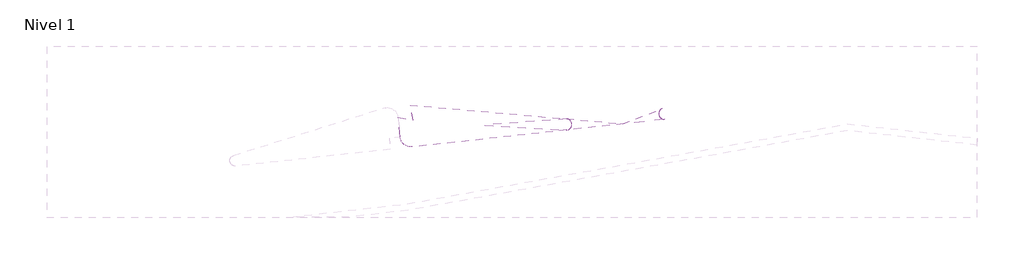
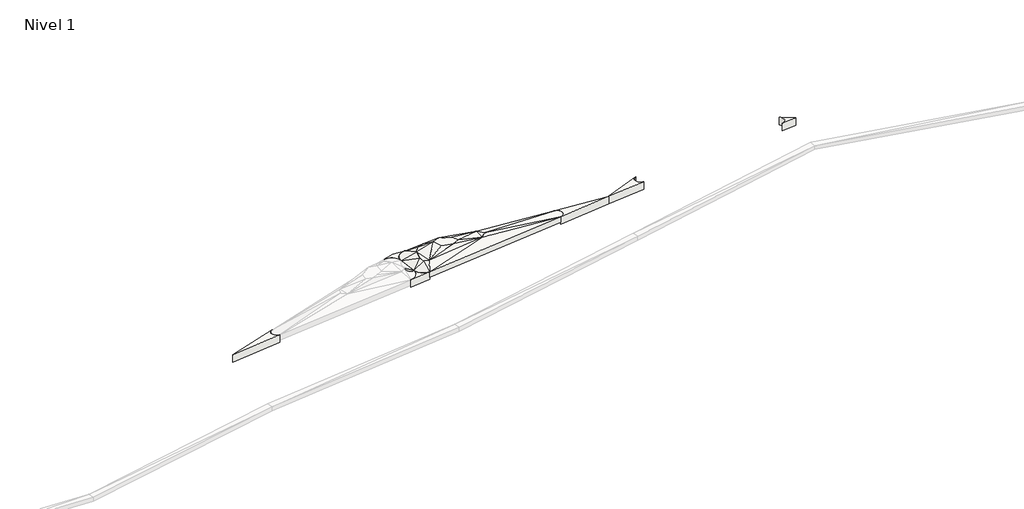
# One storey, part 10 of 45: 2 slabs.
"""IFC4 building model written with IfcOpenShell, lengths in millimetres."""

from ifc_helpers import new_model, si_unit, frame, origin, place, context, project, spatial, polyline, circle_curve, element, save
from ifc_brep_helpers import plane_surface, cylinder_surface, revolved_surface, spline_surface, advanced_brep

model = new_model("IFC4")

# Units and contexts
model_context = context("Model", 3, world=origin())
ifc_project = project(units=[si_unit("LENGTHUNIT", "METRE", prefix="MILLI")], contexts=[model_context])

# Site, building, storey
site = spatial("IfcSite", under=ifc_project)
building = spatial("IfcBuilding", under=site)
storey = spatial("IfcBuildingStorey", under=building, Name="Nivel 1", Elevation=0.0)

# Slabs
placement = place(None, origin())
element("IfcSlab", 1, ObjectType="Lippia", at=placement, inside=storey, context=model_context, shape_type="AdvancedBrep", body=[
    advanced_brep(
    [(-78217.6311545, -457938.6370183, 4700.0), (-78217.6311545, -457938.6370183, 5000.0), (-78314.9841622, -457050.6219198, 5000.0), (-78314.9841622, -457050.6219198, 4700.0), (-77772.3096287, -456498.2212469, 5000.0), (-77772.3096287, -456498.2212469, 4700.0), (-70737.9971161, -457120.3791126, 5000.0), (-70737.9971161, -457120.3791126, 4700.0), (-70734.0395739, -457618.0573532, 4700.0), (-70734.0395739, -457618.0573532, 5000.0), (-77668.3617242, -458378.1558725, 5000.0), (-77668.3617242, -458378.1558725, 4700.0), (-77632.0107481, -457185.1841686, 5300.0), (-77749.1873222, -457671.8530833, 5300.0), (-77632.0107481, -457185.1841686, 5000.0), (-77749.1873222, -457671.8530833, 5000.0), (-75910.5202816, -457236.8727452, 5500.0), (-76173.1330781, -457114.4629871, 5500.0), (-76435.7458745, -456992.0532289, 5500.0), (-76781.1546954, -457147.935309, 5500.0), (-76632.7027764, -457571.9496486, 5500.0), (-76351.9669472, -457639.8429706, 5500.0), (-76120.1136662, -457695.9145077, 5500.0), (-75777.7448454, -457545.0483914, 5500.0), (-75910.5202816, -457236.8727452, 5200.0), (-75777.7448454, -457545.0483914, 5200.0), (-76120.1136662, -457695.9145077, 5200.0), (-76351.9669472, -457639.8429706, 5200.0), (-76632.7027764, -457571.9496486, 5200.0), (-76781.1546954, -457147.935309, 5200.0), (-76435.7458745, -456992.0532289, 5200.0), (-76173.1330781, -457114.4629871, 5200.0), (-77475.5890317, -457978.4907985, 5300.0), (-77692.6710863, -457896.8045734, 5300.0), (-77475.5890317, -457978.4907985, 5000.0), (-77692.6710863, -457896.8045734, 5000.0), (-77427.1176091, -456884.9899688, 5300.0), (-77427.1176091, -456884.9899688, 5000.0), (-77073.0665977, -456802.8581401, 5300.0), (-74626.6695054, -457146.5039374, 5300.0), (-74626.6695054, -457146.5039374, 5000.0), (-77073.0665977, -456802.8581401, 5000.0), (-74632.1171221, -457642.3473699, 5300.0), (-74632.1171221, -457642.3473699, 5000.0), (-74411.4610936, -457396.8092642, 5300.0), (-74411.4610936, -457396.8092642, 5000.0)],
    [
        (0, 1),
        (1, 2),
        (2, 3),
        (3, 0),
        (2, 4, circle_curve(frame((-77817.9586027, -456996.1330568, 5000.0), z_axis=(0.0, 0.0, -1.0), x_axis=(-0.19657437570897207, 0.9804889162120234, 0.0)), 499.9999992)),
        (4, 5),
        (5, 3, circle_curve(frame((-77817.9586027, -456996.1330568, 4700.0), z_axis=(0.0, 0.0, 1.0), x_axis=(-0.19657437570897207, 0.9804889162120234, 0.0)), 499.9999992)),
        (4, 6),
        (6, 7),
        (7, 5),
        (8, 9),
        (9, 10),
        (10, 11),
        (11, 8),
        (10, 1, circle_curve(frame((-77720.9722506, -457880.9314437, 5000.0), z_axis=(0.0, 0.0, -1.0), x_axis=(-0.19657437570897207, 0.9804889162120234, 0.0)), 500.0000001)),
        (0, 11, circle_curve(frame((-77720.9722506, -457880.9314437, 4700.0), z_axis=(0.0, 0.0, 1.0), x_axis=(-0.19657437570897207, 0.9804889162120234, 0.0)), 500.0000001)),
        (2, 12),
        (12, 4),
        (1, 13),
        (13, 2),
        (5, 14),
        (14, 3),
        (3, 15),
        (15, 0),
        (16, 17),
        (17, 18),
        (18, 19),
        (19, 20),
        (20, 21),
        (21, 22),
        (22, 23),
        (23, 16),
        (24, 25),
        (25, 26),
        (26, 27),
        (27, 28),
        (28, 29),
        (29, 30),
        (30, 31),
        (31, 24),
        (20, 32),
        (32, 22),
        (10, 32),
        (32, 33),
        (33, 10),
        (19, 32),
        (26, 34),
        (34, 28),
        (11, 35),
        (35, 34),
        (34, 11),
        (34, 29),
        (32, 12),
        (12, 13),
        (13, 33),
        (19, 12),
        (12, 36),
        (36, 4),
        (35, 15),
        (15, 14),
        (14, 34),
        (14, 29),
        (5, 37),
        (37, 14),
        (4, 38),
        (38, 39),
        (39, 4),
        (19, 38),
        (38, 36),
        (36, 19),
        (5, 40),
        (40, 41),
        (41, 5),
        (29, 37),
        (37, 41),
        (41, 29),
        (22, 42),
        (42, 23),
        (23, 39),
        (39, 16),
        (39, 18),
        (25, 43),
        (43, 26),
        (24, 40),
        (40, 25),
        (30, 40),
        (42, 39),
        (40, 43),
        (1, 33),
        (35, 0),
        (10, 42),
        (42, 32),
        (42, 44),
        (44, 39),
        (18, 38),
        (34, 43),
        (43, 11),
        (40, 45),
        (45, 43),
        (41, 30),
        (6, 9, circle_curve(frame((-70760.0230548, -457369.4113027, 5000.0), z_axis=(0.0, 0.0, -1.0), x_axis=(-0.19657437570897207, 0.9804889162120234, 0.0)), 249.9999994)),
        (8, 7, circle_curve(frame((-70760.0230548, -457369.4113027, 4700.0), z_axis=(0.0, 0.0, 1.0), x_axis=(-0.19657437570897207, 0.9804889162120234, 0.0)), 249.9999994)),
        (9, 42),
        (9, 44),
        (6, 44),
        (6, 39),
        (43, 8),
        (45, 8),
        (45, 7),
        (40, 7),
    ],
    [
        plane_surface(frame((-78217.6311545, -457938.6370183, 4700.0), z_axis=(-0.9940442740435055, -0.10897697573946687, 0.0), x_axis=(0.0, 0.0, 1.0))),
        cylinder_surface(frame((-77817.9586027, -456996.1330568, 5000.0), z_axis=(0.0, 0.0, -1.0000000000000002), x_axis=(-0.19657437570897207, 0.9804889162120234, 0.0)), 499.9999992),
        plane_surface(frame((-77772.3096287, -456498.2212469, 4700.0), z_axis=(0.08810222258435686, 0.9961114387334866, 0.0), x_axis=(0.0, 0.0, 1.0))),
        plane_surface(frame((-70734.0395739, -457618.0573532, 4700.0), z_axis=(0.10896131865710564, -0.9940459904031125, 0.0), x_axis=(0.0, 0.0, 1.0))),
        cylinder_surface(frame((-77720.9722506, -457880.9314437, 5000.0), z_axis=(0.0, 0.0, -1.0000000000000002), x_axis=(-0.19657437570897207, 0.9804889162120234, 0.0)), 500.0000001),
        spline_surface(2, 1, [[(-77772.3096287, -456498.2212469, 5000.0), (-77632.0107481, -457185.1841686, 5300.0)], [(-78008.45505724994, -456476.5712351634, 5000.0), (-77632.0107481, -457185.1841686, 5300.0)], [(-78174.6390691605, -456645.73464911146, 5000.0), (-77632.0107481, -457185.1841686, 5300.0)], [(-78340.8230810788, -456814.89806298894, 5000.0), (-77632.0107481, -457185.1841686, 5300.0)], [(-78314.9807389, -457050.6215446, 5000.0), (-77632.0107481, -457185.1841686, 5300.0)]], [3, 2, 3], [2, 2], [0.0, 1.0, 2.0], [0.0, 1.0], weights=[[1.0, 1.0], [0.9035324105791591, 0.9035324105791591], [1.0, 1.0], [0.903532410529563, 0.903532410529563], [1.0, 1.0]]),
        plane_surface(frame((-78093.9342129, -457553.7040071, 5100.0), z_axis=(-0.515422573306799, -0.05650572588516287, 0.8550711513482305), x_axis=(0.10897697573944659, -0.9940442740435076, 0.0))),
        spline_surface(1, 2, [[(-77772.3096287, -456498.2212469, 4700.0), (-78008.45505724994, -456476.5712351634, 4700.0), (-78174.6390691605, -456645.73464911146, 4700.0), (-78340.8230810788, -456814.89806298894, 4700.0), (-78314.9807389, -457050.6215446, 4700.0)], [(-77632.0107481, -457185.1841686, 5000.0), (-77632.0107481, -457185.1841686, 5000.0), (-77632.0107481, -457185.1841686, 5000.0), (-77632.0107481, -457185.1841686, 5000.0), (-77632.0107481, -457185.1841686, 5000.0)]], [2, 2], [3, 2, 3], [0.0, 1.0], [0.0, 1.0, 2.0], weights=[[1.0, 0.9035324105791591, 1.0, 0.903532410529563, 1.0], [1.0, 0.9035324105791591, 1.0, 0.903532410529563, 1.0]]),
        plane_surface(frame((-78093.9342129, -457553.7040071, 4800.0), z_axis=(0.515422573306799, 0.05650572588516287, -0.8550711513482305), x_axis=(0.10897697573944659, -0.9940442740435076, 0.0))),
        plane_surface(frame((-76276.3303566, -457364.9623051, 5500.0), z_axis=(0.0, 0.0, 1.0), x_axis=(-0.9063720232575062, 0.4224804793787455, 0.0))),
        plane_surface(frame((-76276.3303566, -457364.9623051, 5200.0), z_axis=(0.0, 0.0, -1.0), x_axis=(-0.9063720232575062, 0.4224804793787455, 0.0))),
        plane_surface(frame((-76742.8018248, -457748.784985, 5433.3333333), z_axis=(-0.0750900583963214, -0.31049401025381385, 0.9476048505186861), x_axis=(-0.9719798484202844, 0.23506419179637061, 0.0))),
        plane_surface(frame((-77612.2072807, -458084.4837481, 5200.0), z_axis=(-0.19779889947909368, -0.5256527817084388, 0.8273842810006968), x_axis=(0.35990275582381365, 0.7461666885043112, 0.5600939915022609))),
        plane_surface(frame((-76963.1488345, -457566.1252521, 5433.3333333), z_axis=(-0.19846165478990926, -0.06948353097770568, 0.9776425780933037), x_axis=(-0.6307668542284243, -0.7544080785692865, -0.18166349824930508))),
        plane_surface(frame((-76742.8018248, -457748.784985, 5133.3333333), z_axis=(0.0750900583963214, 0.31049401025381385, -0.9476048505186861), x_axis=(-0.9719798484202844, 0.23506419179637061, 0.0))),
        plane_surface(frame((-77612.2072807, -458084.4837481, 4900.0), z_axis=(0.19779889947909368, 0.5256527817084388, -0.8273842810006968), x_axis=(0.35990275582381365, 0.7461666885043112, 0.5600939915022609))),
        plane_surface(frame((-76963.1488345, -457566.1252521, 5133.3333333), z_axis=(0.19846165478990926, 0.06948353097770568, -0.9776425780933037), x_axis=(-0.6307668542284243, -0.7544080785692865, -0.18166349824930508))),
        plane_surface(frame((-77637.3645471, -457683.0831559, 5300.0), z_axis=(0.0, 0.0, 1.0), x_axis=(-0.19345214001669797, 0.9811097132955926, 0.0))),
        plane_surface(frame((-77296.2514917, -457437.2034254, 5366.6666667), z_axis=(-0.22673703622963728, -0.04470729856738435, 0.9729293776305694), x_axis=(-0.9725857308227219, -0.042577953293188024, -0.22861346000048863))),
        plane_surface(frame((-77610.4793286, -456856.1317948, 5200.0), z_axis=(-0.4229879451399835, 0.28870420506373, 0.8589127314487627), x_axis=(0.18396759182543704, -0.9007834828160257, 0.39337646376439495))),
        plane_surface(frame((-77898.7274108, -457302.5530572, 5200.0), z_axis=(-0.38506660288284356, 0.09271351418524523, 0.9182199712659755), x_axis=(0.6341459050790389, -0.6962767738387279, 0.3362404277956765))),
        plane_surface(frame((-77637.3645471, -457683.0831559, 5000.0), z_axis=(0.0, 0.0, -1.0), x_axis=(-0.19345214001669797, 0.9811097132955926, 0.0))),
        plane_surface(frame((-77296.2514917, -457437.2034254, 5066.6666667), z_axis=(0.22673703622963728, 0.04470729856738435, -0.9729293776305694), x_axis=(-0.9725857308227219, -0.042577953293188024, -0.22861346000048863))),
        plane_surface(frame((-77610.4793286, -456856.1317948, 4900.0), z_axis=(0.4229879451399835, -0.28870420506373, -0.8589127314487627), x_axis=(0.18396759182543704, -0.9007834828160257, 0.39337646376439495))),
        plane_surface(frame((-77898.7274108, -457302.5530572, 4900.0), z_axis=(0.38506660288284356, -0.09271351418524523, -0.9182199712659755), x_axis=(0.6341459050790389, -0.6962767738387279, 0.3362404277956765))),
        plane_surface(frame((-76490.6819106, -456815.8611082, 5200.0), z_axis=(0.11495655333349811, 0.8183699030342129, 0.5630769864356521), x_axis=(0.8531513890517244, -0.3716896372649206, 0.36603213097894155))),
        plane_surface(frame((-77093.7796341, -456945.2611393, 5366.6666667), z_axis=(-0.10063372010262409, 0.43380831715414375, 0.8953676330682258), x_axis=(-0.5906065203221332, 0.6981723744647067, -0.4046470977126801))),
        plane_surface(frame((-76490.6819106, -456815.8611082, 4900.0), z_axis=(-0.11495655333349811, -0.8183699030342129, -0.5630769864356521), x_axis=(0.8531513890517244, -0.3716896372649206, 0.36603213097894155))),
        plane_surface(frame((-77093.7796341, -456945.2611393, 5066.6666667), z_axis=(0.10063372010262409, -0.43380831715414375, -0.8953676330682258), x_axis=(-0.5906065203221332, 0.6981723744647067, -0.4046470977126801))),
        plane_surface(frame((-75509.9918779, -457627.7700897, 5433.3333333), z_axis=(0.13758334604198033, -0.3122254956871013, 0.9399925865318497), x_axis=(-0.915094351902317, -0.40323978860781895, 0.0))),
        plane_surface(frame((-75438.3115442, -457309.4750247, 5433.3333333), z_axis=(0.14918782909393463, 0.06427658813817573, 0.9867175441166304), x_axis=(0.39568133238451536, -0.9183878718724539, 0.0))),
        plane_surface(frame((-75657.6452205, -457125.1433038, 5433.3333333), z_axis=(0.128890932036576, 0.2765172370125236, 0.95232628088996), x_axis=(0.9857014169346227, 0.0693824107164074, -0.15355389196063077))),
        plane_surface(frame((-75509.9918779, -457627.7700897, 5133.3333333), z_axis=(-0.13758334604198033, 0.3122254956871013, -0.9399925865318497), x_axis=(-0.915094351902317, -0.40323978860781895, 0.0))),
        plane_surface(frame((-75438.3115442, -457309.4750247, 5133.3333333), z_axis=(-0.14918782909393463, -0.06427658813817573, -0.9867175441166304), x_axis=(0.39568133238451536, -0.9183878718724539, 0.0))),
        plane_surface(frame((-75657.6452205, -457125.1433038, 5133.3333333), z_axis=(-0.128890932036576, -0.2765172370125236, -0.95232628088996), x_axis=(0.9857014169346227, 0.0693824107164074, -0.15355389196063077))),
        plane_surface(frame((-75012.1771576, -457444.6332329, 5366.6666667), z_axis=(0.1718199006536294, -0.0018877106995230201, 0.9851265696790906), x_axis=(0.9816713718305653, -0.08337404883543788, -0.17137702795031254))),
        plane_surface(frame((-75012.1771576, -457444.6332329, 5066.6666667), z_axis=(-0.1718199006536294, 0.0018877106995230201, -0.9851265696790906), x_axis=(0.9816713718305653, -0.08337404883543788, -0.17137702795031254))),
        plane_surface(frame((-77886.496521, -457835.7648916, 5200.0), z_axis=(-0.4851290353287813, -0.12188257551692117, 0.8659067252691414), x_axis=(0.8661563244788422, 0.06902131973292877, 0.4949841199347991))),
        spline_surface(2, 1, [[(-78217.6311545, -457938.6370183, 5000.0), (-77692.6710863, -457896.8045734, 5300.0)], [(-78160.51420669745, -458430.2297444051, 5000.0), (-77692.6710863, -457896.8045734, 5300.0)], [(-77668.3617242, -458378.1558725, 5000.0), (-77692.6710863, -457896.8045734, 5300.0)]], [3, 3], [2, 2], [0.0, 1.0], [0.0, 1.0], weights=[[1.0, 1.0], [0.7107223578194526, 0.7107223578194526], [1.0, 1.0]]),
        plane_surface(frame((-77886.496521, -457835.7648916, 4900.0), z_axis=(0.4851290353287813, 0.12188257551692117, -0.8659067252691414), x_axis=(0.8661563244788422, 0.06902131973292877, 0.4949841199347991))),
        spline_surface(1, 2, [[(-78217.6311545, -457938.6370183, 4700.0), (-78160.51420669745, -458430.2297444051, 4700.0), (-77668.3617242, -458378.1558725, 4700.0)], [(-77692.6710863, -457896.8045734, 5000.0), (-77692.6710863, -457896.8045734, 5000.0), (-77692.6710863, -457896.8045734, 5000.0)]], [2, 2], [3, 3], [0.0, 1.0], [0.0, 1.0], weights=[[1.0, 0.7107223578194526, 1.0], [1.0, 0.7107223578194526, 1.0]]),
        plane_surface(frame((-77280.0943509, -457072.7031488, 5366.6666667), z_axis=(-0.2324995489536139, 0.1586891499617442, 0.9595632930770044), x_axis=(-0.890320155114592, 0.362413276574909, -0.2756567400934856))),
        plane_surface(frame((-77280.0943509, -457072.7031488, 5066.6666667), z_axis=(0.2324995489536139, -0.1586891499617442, -0.9595632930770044), x_axis=(-0.890320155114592, 0.362413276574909, -0.2756567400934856))),
        plane_surface(frame((-76592.022626, -457999.6646803, 5200.0), z_axis=(0.07342528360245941, -0.6211120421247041, 0.78027466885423), x_axis=(0.9674183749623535, 0.23444575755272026, 0.09558699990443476))),
        plane_surface(frame((-74556.7492404, -457395.2201905, 5300.0), z_axis=(0.0, 0.0, 1.0), x_axis=(-0.010985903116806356, -0.9999396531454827, 0.0))),
        plane_surface(frame((-76763.3223892, -456980.9488927, 5433.3333333), z_axis=(-0.17196163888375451, 0.3810384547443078, 0.9084266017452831), x_axis=(0.9114784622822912, 0.4113478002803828, 0.0))),
        plane_surface(frame((-77424.1646119, -456728.6897853, 5200.0), z_axis=(-0.12443482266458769, 0.536409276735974, 0.8347341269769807), x_axis=(0.5763234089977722, -0.6457387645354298, 0.5008720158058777))),
        plane_surface(frame((-76592.022626, -457999.6646803, 4900.0), z_axis=(-0.07342528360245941, 0.6211120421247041, -0.78027466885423), x_axis=(0.9674183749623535, 0.23444575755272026, 0.09558699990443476))),
        plane_surface(frame((-74556.7492404, -457395.2201905, 5000.0), z_axis=(0.0, 0.0, -1.0), x_axis=(-0.010985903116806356, -0.9999396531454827, 0.0))),
        plane_surface(frame((-76763.3223892, -456980.9488927, 5133.3333333), z_axis=(0.17196163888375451, -0.3810384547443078, -0.9084266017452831), x_axis=(0.9114784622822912, 0.4113478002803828, 0.0))),
        plane_surface(frame((-77424.1646119, -456728.6897853, 4900.0), z_axis=(0.12443482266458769, -0.536409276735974, -0.8347341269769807), x_axis=(0.5763234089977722, -0.6457387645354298, 0.5008720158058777))),
        plane_surface(frame((-76075.93994, -457772.2508921, 5366.6666667), z_axis=(0.10033661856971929, -0.8487577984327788, 0.519175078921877), x_axis=(-0.9688982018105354, -0.20198645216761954, -0.14296065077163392))),
        plane_surface(frame((-76075.93994, -457772.2508921, 5066.6666667), z_axis=(-0.10033661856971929, 0.8487577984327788, -0.519175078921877), x_axis=(-0.9688982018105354, -0.20198645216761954, -0.14296065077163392))),
        plane_surface(frame((-76045.1606592, -456980.4717688, 5366.6666667), z_axis=(0.1247410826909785, 0.8880254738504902, 0.4425499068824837), x_axis=(0.9903849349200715, -0.08455455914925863, -0.10949067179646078))),
        plane_surface(frame((-76045.1606592, -456980.4717688, 5066.6666667), z_axis=(-0.1247410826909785, -0.8880254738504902, -0.4425499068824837), x_axis=(0.9903849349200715, -0.08455455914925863, -0.10949067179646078))),
        cylinder_surface(frame((-70760.0230548, -457369.4113027, 5000.0), z_axis=(0.0, 0.0, -1.0000000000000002), x_axis=(-0.19657437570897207, 0.9804889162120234, 0.0)), 249.9999994),
        plane_surface(frame((-74344.8394734, -457879.5201985, 5100.0), z_axis=(0.06531467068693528, -0.5958608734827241, 0.8004272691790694), x_axis=(0.9940459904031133, 0.10896131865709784, 0.0))),
        plane_surface(frame((-73259.2059298, -457552.4046624, 5200.0), z_axis=(0.07697879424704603, -0.0691779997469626, 0.9946299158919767), x_axis=(0.9970323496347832, 0.006212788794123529, -0.07673262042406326))),
        spline_surface(2, 1, [[(-70734.0395739, -457618.0573532, 5000.0), (-74411.4610936, -457396.8092642, 5300.0)], [(-70508.22537290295, -457594.45979769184, 5000.0), (-74411.4610936, -457396.8092642, 5300.0)], [(-70510.03096098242, -457367.4231534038, 5000.0), (-74411.4610936, -457396.8092642, 5300.0)], [(-70511.83654896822, -457140.386509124, 5000.0), (-74411.4610936, -457396.8092642, 5300.0)], [(-70737.9974992, -457120.3834437, 5000.0), (-74411.4610936, -457396.8092642, 5300.0)]], [3, 2, 3], [2, 2], [0.0, 1.0, 2.0], [0.0, 1.0], weights=[[1.0, 1.0], [0.74027734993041, 0.74027734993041], [1.0, 1.0], [0.7402773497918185, 0.7402773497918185], [1.0, 1.0]]),
        plane_surface(frame((-73258.7092384, -457221.2307714, 5200.0), z_axis=(0.07631463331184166, 0.0656140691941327, 0.9949225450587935), x_axis=(0.6519449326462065, -0.7582663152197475, 0.0))),
        plane_surface(frame((-74378.9920834, -456921.7014323, 5100.0), z_axis=(0.05561164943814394, 0.6287627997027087, 0.7756060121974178), x_axis=(0.9751721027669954, -0.20097251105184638, 0.09300225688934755))),
        plane_surface(frame((-74344.8394734, -457879.5201985, 4800.0), z_axis=(-0.06531467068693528, 0.5958608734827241, -0.8004272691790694), x_axis=(0.9940459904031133, 0.10896131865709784, 0.0))),
        plane_surface(frame((-73259.2059298, -457552.4046624, 4900.0), z_axis=(-0.07697879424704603, 0.0691779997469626, -0.9946299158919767), x_axis=(0.9970323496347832, 0.006212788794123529, -0.07673262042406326))),
        spline_surface(1, 2, [[(-70734.0395739, -457618.0573532, 4700.0), (-70508.22537290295, -457594.45979769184, 4700.0), (-70510.03096098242, -457367.4231534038, 4700.0), (-70511.83654896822, -457140.386509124, 4700.0), (-70737.9974992, -457120.3834437, 4700.0)], [(-74411.4610936, -457396.8092642, 5000.0), (-74411.4610936, -457396.8092642, 5000.0), (-74411.4610936, -457396.8092642, 5000.0), (-74411.4610936, -457396.8092642, 5000.0), (-74411.4610936, -457396.8092642, 5000.0)]], [2, 2], [3, 2, 3], [0.0, 1.0], [0.0, 1.0, 2.0], weights=[[1.0, 0.74027734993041, 1.0, 0.7402773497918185, 1.0], [1.0, 0.74027734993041, 1.0, 0.7402773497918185, 1.0]]),
        plane_surface(frame((-73258.7092384, -457221.2307714, 4900.0), z_axis=(-0.07631463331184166, -0.0656140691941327, -0.9949225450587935), x_axis=(0.6519449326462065, -0.7582663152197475, 0.0))),
        plane_surface(frame((-74378.9920834, -456921.7014323, 4800.0), z_axis=(-0.05561164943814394, -0.6287627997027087, -0.7756060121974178), x_axis=(0.9751721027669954, -0.20097251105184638, 0.09300225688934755))),
    ],
    [
        (0, [[1, 2, 3, 4]]),
        (1, [[-3, 5, 6, 7]]),
        (2, [[-6, 8, 9, 10]]),
        (3, [[11, 12, 13, 14]]),
        (4, [[-13, 15, -1, 16]]),
        (5, [[-5, 17, 18]]),
        (6, [[-2, 19, 20]]),
        (7, [[21, 22, -7]]),
        (8, [[23, 24, -4]]),
        (9, [[25, 26, 27, 28, 29, 30, 31, 32]]),
        (10, [[33, 34, 35, 36, 37, 38, 39, 40]]),
        (11, [[-29, 41, 42, -30]]),
        (12, [[43, 44, 45]]),
        (13, [[46, -41, -28]]),
        (14, [[-35, 47, 48, -36]]),
        (15, [[49, 50, 51]]),
        (16, [[-37, -48, 52]]),
        (17, [[53, 54, 55, -44]]),
        (18, [[56, -53, -46]]),
        (19, [[-18, 57, 58]]),
        (20, [[-20, -54, -17]]),
        (21, [[-50, 59, 60, 61]]),
        (22, [[-52, -61, 62]]),
        (23, [[63, 64, -21]]),
        (24, [[-22, -60, -23]]),
        (25, [[65, 66, 67]]),
        (26, [[68, 69, 70]]),
        (27, [[71, 72, 73]]),
        (28, [[74, 75, 76]]),
        (29, [[-31, 77, 78]]),
        (30, [[-32, 79, 80]]),
        (31, [[-80, 81, -26, -25]]),
        (32, [[82, 83, -34]]),
        (33, [[84, 85, -33]]),
        (34, [[-40, -39, 86, -84]]),
        (35, [[-78, 87, -79]]),
        (36, [[-85, 88, -82]]),
        (37, [[89, -55, -19]]),
        (38, [[-45, -89, -15]]),
        (39, [[-24, -59, 90]]),
        (40, [[-16, -90, -49]]),
        (41, [[-70, -57, -56]]),
        (42, [[-62, -64, -74]]),
        (43, [[91, 92, -43]]),
        (44, [[-87, 93, 94]]),
        (45, [[-27, 95, -68]]),
        (46, [[-58, -69, -65]]),
        (47, [[-51, 96, 97]]),
        (48, [[98, 99, -88]]),
        (49, [[-76, 100, -38]]),
        (50, [[-73, -75, -63]]),
        (51, [[-42, -92, -77]]),
        (52, [[-83, -96, -47]]),
        (53, [[-81, -66, -95]]),
        (54, [[-100, -72, -86]]),
        (55, [[-9, 101, -11, 102]]),
        (56, [[-12, 103, -91]]),
        (57, [[-103, 104, -93]]),
        (58, [[-104, -101, 105]]),
        (59, [[-94, -105, 106]]),
        (60, [[-67, -106, -8]]),
        (61, [[-97, 107, -14]]),
        (62, [[-99, 108, -107]]),
        (63, [[109, -102, -108]]),
        (64, [[110, -109, -98]]),
        (65, [[-10, -110, -71]]),
    ],
),
])
element("IfcSlab", 2, ObjectType="Bordillo", at=placement, inside=storey, context=model_context, shape_type="AdvancedBrep", body=[
    advanced_brep(
    [(-58280.5511731, -456252.977658, 4600.0), (-58280.5511731, -456252.977658, 5000.0), (-58994.8204812, -456331.2729292, 5000.0), (-58994.8204812, -456331.2729292, 4600.0), (-58876.8429059, -455873.8068254, 5000.0), (-58876.8429059, -455873.8068254, 4600.0)],
    [
        (0, 1),
        (1, 2),
        (2, 3),
        (3, 0),
        (2, 4, circle_curve(frame((-59022.3385296, -456080.2322589, 5000.0), z_axis=(0.0, 0.0, 1.0), x_axis=(-0.19670504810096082, 0.9804627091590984, 0.0)), 252.5478887)),
        (4, 5),
        (5, 3, circle_curve(frame((-59022.3385296, -456080.2322589, 4600.0), z_axis=(0.0, 0.0, -1.0), x_axis=(-0.19670504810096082, 0.9804627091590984, 0.0)), 252.5478887)),
        (4, 1),
        (0, 5),
    ],
    [
        plane_surface(frame((-58280.5511731, -456252.977658, 4600.0), z_axis=(0.1089632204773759, -0.994045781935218, 0.0), x_axis=(0.0, 0.0, 1.0))),
        revolved_surface(polyline([(-59072.015974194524, -455832.6184717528, 5000.0), (-59072.015974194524, -455832.6184717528, 4600.0)]), (-59022.3385296, -456080.2322589, 5000.0), (0.0, 0.0, 1.0)),
        plane_surface(frame((-58876.8429059, -455873.8068254, 4600.0), z_axis=(0.5365858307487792, 0.8438457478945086, 0.0), x_axis=(0.0, 0.0, 1.0))),
        plane_surface(frame((-58717.4048534, -456152.6858042, 5000.0), z_axis=(0.0, 0.0, 1.0), x_axis=(-0.19670504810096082, 0.9804627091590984, 0.0))),
        plane_surface(frame((-58717.4048534, -456152.6858042, 4600.0), z_axis=(0.0, 0.0, -1.0), x_axis=(-0.19670504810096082, 0.9804627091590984, 0.0))),
    ],
    [
        (0, [[1, 2, 3, 4]]),
        (1, [[-3, 5, 6, 7]]),
        (2, [[-6, 8, -1, 9]]),
        (3, [[-5, -2, -8]]),
        (4, [[-9, -4, -7]]),
    ],
),
    advanced_brep(
    [(-68183.0317645, -457338.4469548, 4600.0), (-68183.0317645, -457338.4469548, 5000.0), (-70736.0070959, -457618.2936369, 5000.0), (-70736.0070959, -457618.2936369, 4600.0), (-70732.2359604, -457118.2438979, 5000.0), (-70732.2359604, -457118.2438979, 4600.0), (-68227.9575335, -457339.4013221, 5000.0), (-68227.9575335, -457339.4013221, 4600.0), (-66460.995269, -456653.7586158, 5000.0), (-66460.995269, -456653.7586158, 4600.0), (-66333.385829, -457135.698401, 5000.0), (-66333.385829, -457135.698401, 4600.0)],
    [
        (0, 1),
        (1, 2),
        (2, 3),
        (3, 0),
        (2, 4, circle_curve(frame((-70763.9234688, -457368.0440154, 5000.0), z_axis=(0.0, 0.0, 1.0), x_axis=(-0.19670504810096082, 0.9804627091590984, 0.0)), 251.8019001)),
        (4, 5),
        (5, 3, circle_curve(frame((-70763.9234688, -457368.0440154, 4600.0), z_axis=(0.0, 0.0, -1.0), x_axis=(-0.19670504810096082, 0.9804627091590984, 0.0)), 251.8019001)),
        (4, 6),
        (6, 7),
        (7, 5),
        (6, 8),
        (8, 9),
        (9, 7),
        (8, 10, circle_curve(frame((-66360.8545902, -456885.1073659, 5000.0), z_axis=(0.0, 0.0, 1.0), x_axis=(-0.19670504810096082, 0.9804627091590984, 0.0)), 252.0920461)),
        (10, 11),
        (11, 9, circle_curve(frame((-66360.8545902, -456885.1073659, 4600.0), z_axis=(0.0, 0.0, -1.0), x_axis=(-0.19670504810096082, 0.9804627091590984, 0.0)), 252.0920461)),
        (10, 1),
        (0, 11),
    ],
    [
        plane_surface(frame((-68183.0317645, -457338.4469548, 4600.0), z_axis=(0.10896322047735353, -0.9940457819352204, 0.0), x_axis=(0.0, 0.0, 1.0))),
        revolved_surface(polyline([(-70813.45417367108, -457121.16164225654, 5000.0), (-70813.45417367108, -457121.16164225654, 4600.0)]), (-70763.9234688, -457368.0440154, 0.0), (0.0, 0.0, 1.0)),
        plane_surface(frame((-70732.2359604, -457118.2438979, 4600.0), z_axis=(0.08796946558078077, 0.9961231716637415, 0.0), x_axis=(0.0, 0.0, 1.0))),
        plane_surface(frame((-68227.9575335, -457339.4013221, 4600.0), z_axis=(-0.36175445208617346, 0.9322734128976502, 0.0), x_axis=(0.0, 0.0, 1.0))),
        revolved_surface(polyline([(-66410.44236825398, -456637.94051542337, 5000.0), (-66410.44236825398, -456637.94051542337, 4600.0)]), (-66360.8545902, -456885.1073659, 0.0), (0.0, 0.0, 1.0)),
        plane_surface(frame((-66333.3860506, -457135.69638, 4600.0), z_axis=(0.10896322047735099, -0.9940457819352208, 0.0), x_axis=(0.0, 0.0, 1.0))),
        plane_surface(frame((-68445.602242, -457200.6404714, 5000.0), z_axis=(0.0, 0.0, 1.0), x_axis=(-0.19670504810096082, 0.9804627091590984, 0.0))),
        plane_surface(frame((-68445.602242, -457200.6404714, 4600.0), z_axis=(0.0, 0.0, -1.0), x_axis=(-0.19670504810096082, 0.9804627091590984, 0.0))),
    ],
    [
        (0, [[1, 2, 3, 4]]),
        (1, [[-3, 5, 6, 7]]),
        (2, [[-6, 8, 9, 10]]),
        (3, [[-9, 11, 12, 13]]),
        (4, [[-12, 14, 15, 16]]),
        (5, [[-15, 17, -1, 18]]),
        (6, [[-14, -11, -8, -5, -2, -17]]),
        (7, [[-18, -4, -7, -10, -13, -16]]),
    ],
),
    advanced_brep(
    [(-77778.9342611, -456495.9344535, 4600.0), (-77778.9342611, -456495.9344535, 5000.0), (-78322.4124939, -457016.4958719, 5000.0), (-78322.4124939, -457016.4958719, 4600.0), (-78902.0416631, -456605.559076, 5000.0), (-78902.0416631, -456605.559076, 4600.0), (-78386.4841549, -456442.2831912, 5000.0), (-78386.4841549, -456442.2831912, 4600.0)],
    [
        (0, 1),
        (1, 2, circle_curve(frame((-77822.9189938, -456993.9960385, 5000.0), z_axis=(0.0, 0.0, 1.0), x_axis=(-0.19670504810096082, 0.9804627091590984, 0.0)), 499.9999992)),
        (2, 3),
        (3, 0, circle_curve(frame((-77822.9189938, -456993.9960385, 4600.0), z_axis=(0.0, 0.0, -1.0), x_axis=(-0.19670504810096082, 0.9804627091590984, 0.0)), 499.9999992)),
        (2, 4, circle_curve(frame((-78817.6805984, -457100.8210729, 5000.0), z_axis=(0.0, 0.0, 1.0), x_axis=(-0.19670504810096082, 0.9804627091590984, 0.0)), 502.3954964)),
        (4, 5),
        (5, 3, circle_curve(frame((-78817.6805984, -457100.8210729, 4600.0), z_axis=(0.0, 0.0, -1.0), x_axis=(-0.19670504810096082, 0.9804627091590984, 0.0)), 502.3954964)),
        (4, 6),
        (6, 7),
        (7, 5),
        (6, 1),
        (0, 7),
    ],
    [
        revolved_surface(polyline([(-77921.27151769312, -456503.76468470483, 5000.0), (-77921.27151769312, -456503.76468470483, 4600.0)]), (-77822.9189938, -456993.9960385, 0.0), (0.0, 0.0, 1.0)),
        revolved_surface(polyline([(-78916.50432868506, -456608.24102343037, 5000.0), (-78916.50432868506, -456608.24102343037, 4600.0)]), (-78817.6805984, -457100.8210729, 0.0), (0.0, 0.0, 1.0)),
        plane_surface(frame((-78902.0416631, -456605.559076, 4600.0), z_axis=(-0.30191860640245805, 0.9533337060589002, 0.0), x_axis=(0.0, 0.0, 1.0))),
        plane_surface(frame((-78386.4841549, -456442.2831912, 4600.0), z_axis=(0.08796946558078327, 0.9961231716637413, 0.0), x_axis=(0.0, 0.0, 1.0))),
        plane_surface(frame((-78347.4681999, -456640.0687891, 5000.0), z_axis=(0.0, 0.0, 1.0), x_axis=(-0.9533337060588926, -0.3019186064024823, 0.0))),
        plane_surface(frame((-78347.4681999, -456640.0687891, 4600.0), z_axis=(0.0, 0.0, -1.0), x_axis=(-0.9533337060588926, -0.3019186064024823, 0.0))),
    ],
    [
        (0, [[1, 2, 3, 4]]),
        (1, [[-3, 5, 6, 7]]),
        (2, [[-6, 8, 9, 10]]),
        (3, [[-9, 11, -1, 12]]),
        (4, [[-8, -5, -2, -11]]),
        (5, [[-12, -4, -7, -10]]),
    ],
),
    advanced_brep(
    [(-78665.4653487, -458487.4939391, 4600.0), (-78665.4653487, -458487.4939391, 5000.0), (-78219.5292762, -457963.5387149, 5000.0), (-78219.5292762, -457963.5387149, 4600.0), (-77670.6144467, -458378.44189, 5000.0), (-77670.6144467, -458378.44189, 4600.0)],
    [
        (0, 1),
        (1, 2, circle_curve(frame((-78720.0788478, -457989.2678578, 5000.0), z_axis=(0.0, 0.0, 1.0), x_axis=(-0.19670504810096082, 0.9804627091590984, 0.0)), 501.2103973)),
        (2, 3),
        (3, 0, circle_curve(frame((-78720.0788478, -457989.2678578, 4600.0), z_axis=(0.0, 0.0, -1.0), x_axis=(-0.19670504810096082, 0.9804627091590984, 0.0)), 501.2103973)),
        (2, 4, circle_curve(frame((-77725.2354042, -457880.1477668, 5000.0), z_axis=(0.0, 0.0, 1.0), x_axis=(-0.19670504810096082, 0.9804627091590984, 0.0)), 501.2788467)),
        (4, 5),
        (5, 3, circle_curve(frame((-77725.2354042, -457880.1477668, 4600.0), z_axis=(0.0, 0.0, -1.0), x_axis=(-0.19670504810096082, 0.9804627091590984, 0.0)), 501.2788467)),
        (4, 1),
        (0, 5),
    ],
    [
        revolved_surface(polyline([(-78818.6694631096, -457497.84975380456, 5000.0), (-78818.6694631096, -457497.84975380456, 4600.0)]), (-78720.0788478, -457989.2678578, 0.0), (0.0, 0.0, 1.0)),
        revolved_surface(polyline([(-77823.8394838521, -457388.6625507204, 5000.0), (-77823.8394838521, -457388.6625507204, 4600.0)]), (-77725.2354042, -457880.1477668, 0.0), (0.0, 0.0, 1.0)),
        plane_surface(frame((-77670.6149931, -458378.4369049, 4600.0), z_axis=(0.10896322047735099, -0.9940457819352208, 0.0), x_axis=(0.0, 0.0, 1.0))),
        plane_surface(frame((-78185.2032268, -458276.4896637, 5000.0), z_axis=(0.0, 0.0, 1.0), x_axis=(-0.19670504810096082, 0.9804627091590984, 0.0))),
        plane_surface(frame((-78185.2032268, -458276.4896637, 4600.0), z_axis=(0.0, 0.0, -1.0), x_axis=(-0.19670504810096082, 0.9804627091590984, 0.0))),
    ],
    [
        (0, [[1, 2, 3, 4]]),
        (1, [[-3, 5, 6, 7]]),
        (2, [[-6, 8, -1, 9]]),
        (3, [[-5, -2, -8]]),
        (4, [[-9, -4, -7]]),
    ],
),
    advanced_brep(
    [(-85701.8354996, -458759.0260086, 4600.0), (-85701.8354996, -458759.0260086, 5000.0), (-85614.8415004, -459249.2504229, 5000.0), (-85614.8415004, -459249.2504229, 4600.0), (-88115.1236724, -459523.321097, 5000.0), (-88115.1236724, -459523.321097, 4600.0)],
    [
        (0, 1),
        (1, 2, circle_curve(frame((-85626.0250519, -458998.4039521, 5000.0), z_axis=(0.0, 0.0, 1.0), x_axis=(-0.19670504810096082, 0.9804627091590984, 0.0)), 251.0956467)),
        (2, 3),
        (3, 0, circle_curve(frame((-85626.0250519, -458998.4039521, 4600.0), z_axis=(0.0, 0.0, -1.0), x_axis=(-0.19670504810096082, 0.9804627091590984, 0.0)), 251.0956467)),
        (2, 4),
        (4, 5),
        (5, 3),
        (4, 1),
        (0, 5),
    ],
    [
        revolved_surface(polyline([(-85675.41683316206, -458752.21403407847, 5000.0), (-85675.41683316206, -458752.21403407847, 4600.0)]), (-85626.0250519, -458998.4039521, 0.0), (0.0, 0.0, 1.0)),
        plane_surface(frame((-85614.8415004, -459249.2504229, 4600.0), z_axis=(0.10896322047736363, -0.9940457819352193, 0.0), x_axis=(0.0, 0.0, 1.0))),
        plane_surface(frame((-88115.1236724, -459523.321097, 4600.0), z_axis=(-0.3019186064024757, 0.9533337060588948, 0.0), x_axis=(0.0, 0.0, 1.0))),
        plane_surface(frame((-86477.2657166, -459177.2028838, 5000.0), z_axis=(0.0, 0.0, 1.0), x_axis=(0.9940457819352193, 0.10896322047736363, 0.0))),
        plane_surface(frame((-86477.2657166, -459177.2028838, 4600.0), z_axis=(0.0, 0.0, -1.0), x_axis=(0.9940457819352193, 0.10896322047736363, 0.0))),
    ],
    [
        (0, [[1, 2, 3, 4]]),
        (1, [[-3, 5, 6, 7]]),
        (2, [[-6, 8, -1, 9]]),
        (3, [[-5, -2, -8]]),
        (4, [[-9, -4, -7]]),
    ],
),
])

save(model, "model.ifc")
